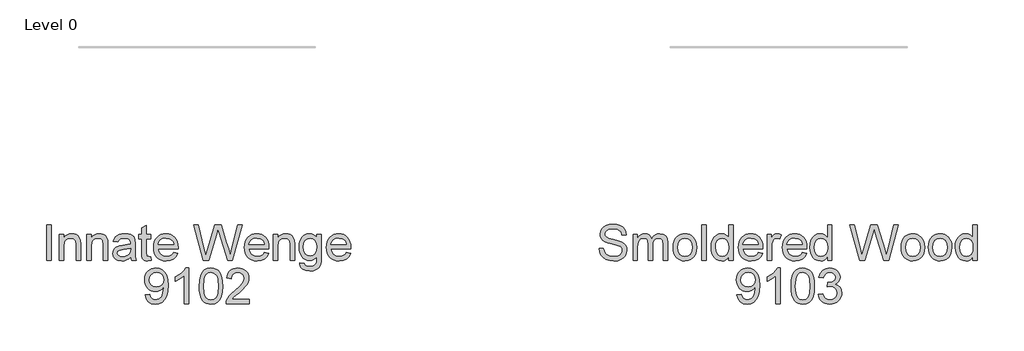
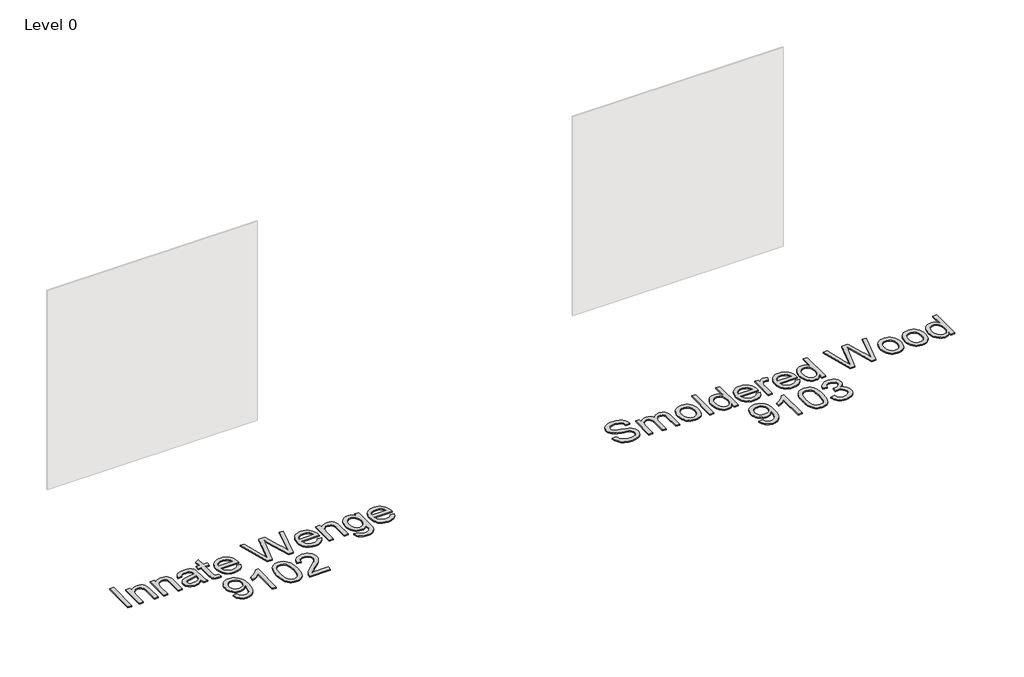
# One storey, part 4 of 10: 2 proxies.
"""IFC4 building model written with IfcOpenShell, lengths in millimetres."""

from ifc_helpers import new_model, si_unit, origin, origin_with_axes, place, context, project, spatial, polyline, outline, extrude, element, save

model = new_model("IFC4")

# Units and contexts
model_context = context("Model", 3, world=origin())
ifc_project = project(units=[si_unit("LENGTHUNIT", "METRE", prefix="MILLI")], contexts=[model_context])

# Site, building, storey
site = spatial("IfcSite", under=ifc_project)
building = spatial("IfcBuilding", under=site)
storey = spatial("IfcBuildingStorey", under=building, Name="Level 0", Elevation=0.0)

# Proxies
placement = place(None, origin())
element("IfcBuildingElementProxy", 1, Name="300mm Arial", ObjectType="300mm Arial", at=placement, inside=storey, context=model_context, shape_type="SweptSolid", body=[
    extrude(outline(polyline([(-10722.0582316, -7002.860494), (-10722.0582316, -6701.4915635), (-10684.3871153, -6701.4915635), (-10684.3871153, -7002.860494), (-10722.0582316, -7002.860494)])), origin_with_axes(), (0.0, 0.0, 1.0), 10.0),
    extrude(outline(polyline([(-10613.7537723, -7002.860494), (-10613.7537723, -6781.5426857), (-10576.082656, -6781.5426857), (-10576.082656, -6812.4447733), (-10562.995254, -6796.8649708), (-10547.2774957, -6785.7365404), (-10528.9293812, -6779.0594822), (-10507.9509104, -6776.8337961), (-10489.3820667, -6778.6272209), (-10472.3767215, -6784.0074951), (-10458.1948706, -6792.303234), (-10448.0965098, -6802.8430532), (-10436.8025326, -6830.5445674), (-10434.8159698, -6866.964885), (-10434.8159698, -7002.860494), (-10472.4870861, -7002.860494), (-10472.4870861, -6872.0416565), (-10476.8280937, -6838.7115477), (-10482.8337672, -6828.7879309), (-10492.1687729, -6821.0900002), (-10504.1341347, -6816.1511844), (-10518.0308771, -6814.5049125), (-10540.0945998, -6818.2021265), (-10558.9025668, -6829.2937687), (-10566.4188558, -6838.3482643), (-10571.7876337, -6850.7228949), (-10576.082656, -6885.4325611), (-10576.082656, -7002.860494), (-10613.7537723, -7002.860494)])), origin_with_axes(), (0.0, 0.0, 1.0), 10.0),
    extrude(outline(polyline([(-10383.0181849, -7002.860494), (-10383.0181849, -6781.5426857), (-10345.3470686, -6781.5426857), (-10345.3470686, -6812.4447733), (-10332.2596666, -6796.8649708), (-10316.5419084, -6785.7365404), (-10298.1937938, -6779.0594822), (-10277.2153231, -6776.8337961), (-10258.6464794, -6778.6272209), (-10241.6411341, -6784.0074951), (-10227.4592832, -6792.303234), (-10217.3609225, -6802.8430532), (-10206.0669452, -6830.5445674), (-10204.0803824, -6866.964885), (-10204.0803824, -7002.860494), (-10241.7514987, -7002.860494), (-10241.7514987, -6872.0416565), (-10246.0925063, -6838.7115477), (-10252.0981798, -6828.7879309), (-10261.4331855, -6821.0900002), (-10273.3985474, -6816.1511844), (-10287.2952897, -6814.5049125), (-10309.3590124, -6818.2021265), (-10328.1669794, -6829.2937687), (-10335.6832684, -6838.3482643), (-10341.0520463, -6850.7228949), (-10345.3470686, -6885.4325611), (-10345.3470686, -7002.860494), (-10383.0181849, -7002.860494)])), origin_with_axes(), (0.0, 0.0, 1.0), 10.0),
    extrude(outline(polyline([(-10011.0159114, -6974.6071568), (-10029.014538, -6990.0398064), (-10047.5465935, -7000.1381672), (-10067.0351422, -7005.7115794), (-10087.9032484, -7007.5693835), (-10119.3847501, -7003.0996173), (-10142.607301, -6989.6903186), (-10156.9271077, -6969.3280501), (-10161.7003766, -6943.9993748), (-10159.8977548, -6928.3827841), (-10154.4898895, -6914.2009331), (-10146.1481652, -6902.0608273), (-10135.5439667, -6892.5694718), (-10109.1668277, -6880.2086368), (-10076.5724829, -6874.5432541), (-10038.055238, -6868.5835657), (-10011.2366406, -6861.5938078), (-10011.0159114, -6853.2060983), (-10013.6094794, -6836.3938912), (-10021.3901836, -6825.3942195), (-10038.791002, -6817.2272392), (-10063.0344255, -6814.5049125), (-10085.4752272, -6816.3167313), (-10101.1470002, -6821.7521878), (-10111.8339721, -6831.8045633), (-10119.3203707, -6847.4671392), (-10156.991487, -6842.7582497), (-10150.4523846, -6822.156858), (-10140.6943147, -6805.9700502), (-10126.8067693, -6793.590821), (-10107.8792407, -6784.4121652), (-10084.7302661, -6778.7283884), (-10058.1783831, -6776.8337961), (-10032.711752, -6778.5076592), (-10012.5242275, -6783.5292485), (-9997.30311, -6791.0800264), (-9986.7356997, -6800.3414556), (-9979.7275477, -6811.7917827), (-9975.184205, -6825.9092543), (-9973.3447951, -6858.8714811), (-9973.3447951, -6905.7396473), (-9971.4318087, -6971.1858542), (-9963.927016, -7002.860494), (-10001.5981323, -7002.860494), (-10011.0159114, -6974.6071568)]), holes=[polyline([(-10011.0159114, -6899.2649241), (-10071.790017, -6910.8164188), (-10104.2004207, -6916.9232599), (-10118.8789123, -6926.8560738), (-10124.0292603, -6941.3506244), (-10121.2241601, -6952.5526311), (-10112.8088594, -6961.7312869), (-10098.9672994, -6967.8565221), (-10079.8834209, -6969.8982672), (-10059.6499111, -6967.64499), (-10041.7708462, -6960.8851583), (-10027.2762955, -6950.9247533), (-10017.1963289, -6939.069756), (-10012.7265626, -6926.8560738), (-10011.2366406, -6909.933502), (-10011.0159114, -6899.2649241)])]), origin_with_axes(), (0.0, 0.0, 1.0), 10.0),
    extrude(outline(polyline([(-9841.495888, -6971.4433716), (-9836.7869984, -7003.96414), (-9864.9667593, -7007.5693835), (-9883.0481593, -7006.005885), (-9896.5310345, -7001.3153896), (-9906.0591781, -6994.0865084), (-9912.2763839, -6984.9078526), (-9915.6976864, -6969.1441091), (-9916.8381206, -6942.1599648), (-9916.8381206, -6819.213802), (-9945.0914578, -6819.213802), (-9945.0914578, -6781.5426857), (-9916.8381206, -6781.5426857), (-9916.8381206, -6727.758338), (-9879.1670043, -6705.6118419), (-9879.1670043, -6781.5426857), (-9841.495888, -6781.5426857), (-9841.495888, -6819.213802), (-9879.1670043, -6819.213802), (-9879.1670043, -6941.0563188), (-9877.1804415, -6960.4804881), (-9870.7425066, -6967.3598814), (-9857.903425, -6969.8982672), (-9841.495888, -6971.4433716)])), origin_with_axes(), (0.0, 0.0, 1.0), 10.0),
    extrude(outline(polyline([(-9648.8728753, -6936.9360404), (-9611.937523, -6941.64493), (-9625.2456542, -6969.4752029), (-9646.4816423, -6990.2789297), (-9675.1672409, -7003.2467701), (-9710.8242033, -7007.5693835), (-9734.1985056, -7005.7046817), (-9755.025225, -7000.1105761), (-9773.3043617, -6990.7870668), (-9789.0359155, -6977.7341537), (-9801.6864576, -6961.3151204), (-9810.7225591, -6941.8932503), (-9816.14422, -6919.4685435), (-9817.9514403, -6894.0409998), (-9816.1258259, -6867.7512327), (-9810.6489827, -6844.5792656), (-9801.5209107, -6824.5250983), (-9788.7416099, -6807.5887309), (-9773.0514428, -6794.133447), (-9755.1907719, -6784.5225298), (-9735.1595973, -6778.7559796), (-9712.9579189, -6776.8337961), (-9691.4713111, -6778.751381), (-9672.040244, -6784.5041357), (-9654.6647175, -6794.0920602), (-9639.3447316, -6807.5151545), (-9626.8390431, -6824.4147337), (-9617.9064084, -6844.4321128), (-9612.5468275, -6867.5672917), (-9610.7603006, -6893.8202706), (-9610.9810298, -6903.9738137), (-9780.280324, -6903.9738137), (-9773.7596156, -6932.1719686), (-9758.6120745, -6952.902119), (-9736.7506869, -6965.6492302), (-9710.0884393, -6969.8982672), (-9690.0388706, -6967.9300985), (-9673.153087, -6962.0255925), (-9659.4310886, -6951.8168672), (-9648.8728753, -6936.9360404)]), holes=[polyline([(-9780.280324, -6866.3026974), (-9648.4314169, -6866.3026974), (-9653.5265825, -6846.4002814), (-9663.5145787, -6832.1632482), (-9685.4771338, -6818.9194964), (-9713.1050717, -6814.5049125), (-9738.4981264, -6818.0273826), (-9759.4949913, -6828.5947929), (-9774.0907094, -6845.0667092), (-9780.280324, -6866.3026974)])]), origin_with_axes(), (0.0, 0.0, 1.0), 10.0),
    extrude(outline(polyline([(-9396.7265558, -7002.860494), (-9478.9113935, -6701.4915635), (-9440.0630548, -6701.4915635), (-9392.3855483, -6899.5592297), (-9377.6702685, -6960.7012173), (-9361.9249191, -6906.622564), (-9302.1808831, -6701.4915635), (-9246.1892434, -6701.4915635), (-9202.779168, -6850.189466), (-9184.1827331, -6905.3717653), (-9170.4791288, -6960.7012173), (-9156.2053074, -6901.3250633), (-9108.0863424, -6701.4915635), (-9069.2380037, -6701.4915635), (-9151.4964178, -7002.860494), (-9191.7427081, -7002.860494), (-9263.994732, -6770.359073), (-9274.0746986, -6737.9118811), (-9285.4054641, -6776.9809489), (-9351.2563412, -7002.860494), (-9396.7265558, -7002.860494)])), origin_with_axes(), (0.0, 0.0, 1.0), 10.0),
    extrude(outline(polyline([(-8881.3238806, -6936.9360404), (-8844.3885283, -6941.64493), (-8857.6966594, -6969.4752029), (-8878.9326476, -6990.2789297), (-8907.6182462, -7003.2467701), (-8943.2752086, -7007.5693835), (-8966.6495108, -7005.7046817), (-8987.4762303, -7000.1105761), (-9005.7553669, -6990.7870668), (-9021.4869207, -6977.7341537), (-9034.1374628, -6961.3151204), (-9043.1735643, -6941.8932503), (-9048.5952253, -6919.4685435), (-9050.4024456, -6894.0409998), (-9048.5768312, -6867.7512327), (-9043.099988, -6844.5792656), (-9033.9719159, -6824.5250983), (-9021.1926151, -6807.5887309), (-9005.502448, -6794.133447), (-8987.6417772, -6784.5225298), (-8967.6106025, -6778.7559796), (-8945.4089241, -6776.8337961), (-8923.9223164, -6778.751381), (-8904.4912492, -6784.5041357), (-8887.1157227, -6794.0920602), (-8871.7957369, -6807.5151545), (-8859.2900483, -6824.4147337), (-8850.3574136, -6844.4321128), (-8844.9978328, -6867.5672917), (-8843.2113059, -6893.8202706), (-8843.4320351, -6903.9738137), (-9012.7313292, -6903.9738137), (-9006.2106209, -6932.1719686), (-8991.0630797, -6952.902119), (-8969.2016922, -6965.6492302), (-8942.5394446, -6969.8982672), (-8922.4898758, -6967.9300985), (-8905.6040923, -6962.0255925), (-8891.8820938, -6951.8168672), (-8881.3238806, -6936.9360404)]), holes=[polyline([(-9012.7313292, -6866.3026974), (-8880.8824222, -6866.3026974), (-8885.9775878, -6846.4002814), (-8895.965584, -6832.1632482), (-8917.9281391, -6818.9194964), (-8945.5560769, -6814.5049125), (-8970.9491316, -6818.0273826), (-8991.9459965, -6828.5947929), (-9006.5417147, -6845.0667092), (-9012.7313292, -6866.3026974)])]), origin_with_axes(), (0.0, 0.0, 1.0), 10.0),
    extrude(outline(polyline([(-8805.5401896, -7002.860494), (-8805.5401896, -6781.5426857), (-8767.8690733, -6781.5426857), (-8767.8690733, -6812.4447733), (-8754.7816713, -6796.8649708), (-8739.063913, -6785.7365404), (-8720.7157985, -6779.0594822), (-8699.7373278, -6776.8337961), (-8681.168484, -6778.6272209), (-8664.1631388, -6784.0074951), (-8649.9812879, -6792.303234), (-8639.8829271, -6802.8430532), (-8628.5889499, -6830.5445674), (-8626.6023871, -6866.964885), (-8626.6023871, -7002.860494), (-8664.2735034, -7002.860494), (-8664.2735034, -6872.0416565), (-8668.614511, -6838.7115477), (-8674.6201845, -6828.7879309), (-8683.9551902, -6821.0900002), (-8695.9205521, -6816.1511844), (-8709.8172944, -6814.5049125), (-8731.8810171, -6818.2021265), (-8750.6889841, -6829.2937687), (-8758.2052731, -6838.3482643), (-8763.574051, -6850.7228949), (-8767.8690733, -6885.4325611), (-8767.8690733, -7002.860494), (-8805.5401896, -7002.860494)])), origin_with_axes(), (0.0, 0.0, 1.0), 10.0),
    extrude(outline(polyline([(-8584.2223813, -7021.6960521), (-8546.551265, -7026.4049417), (-8542.3941984, -7038.1771655), (-8534.3375827, -7046.2705694), (-8518.5002628, -7052.5613515), (-8497.7701124, -7054.6582789), (-8475.6604045, -7052.28544), (-8459.2160793, -7045.1669234), (-8447.8117375, -7033.7625816), (-8440.8219795, -7018.532267), (-8438.2468056, -6974.6071568), (-8450.7823846, -6986.9679918), (-8464.7710974, -6995.7971597), (-8480.2129442, -7001.0946604), (-8497.1079248, -7002.860494), (-8517.7621996, -7000.8049533), (-8535.9470664, -6994.6383314), (-8551.6625254, -6984.3606281), (-8564.9085765, -6969.9718436), (-8575.4185053, -6952.708981), (-8582.9255972, -6933.8090435), (-8587.4298524, -6913.2720311), (-8588.9312708, -6891.0979438), (-8586.2365352, -6860.6832999), (-8578.1523283, -6832.7150712), (-8564.9637588, -6809.0142737), (-8546.9559352, -6791.4019232), (-8524.7450597, -6780.4758279), (-8498.9473348, -6776.8337961), (-8481.3303857, -6778.8939353), (-8465.3413145, -6785.0743528), (-8450.9801211, -6795.3750487), (-8438.2468056, -6809.7960229), (-8438.2468056, -6781.5426857), (-8400.5756893, -6781.5426857), (-8400.5756893, -6972.620594), (-8403.1508632, -7016.7388422), (-8410.8763851, -7045.7923228), (-8424.1845163, -7065.0601423), (-8443.5075181, -7079.8214074), (-8468.4223262, -7089.2023982), (-8498.5058764, -7092.3293952), (-8533.5558335, -7087.9240083), (-8561.1561802, -7074.7078476), (-8571.5511458, -7064.7865301), (-8578.8605012, -7052.644125), (-8583.0842463, -7038.2806323), (-8584.2223813, -7021.6960521)]), holes=[polyline([(-8551.2601545, -6888.5227699), (-8547.2410437, -6923.0760863), (-8535.1837113, -6946.8320661), (-8517.056326, -6960.6000498), (-8494.8270564, -6965.1893777), (-8472.7633338, -6960.6276409), (-8454.543978, -6946.9424307), (-8442.3210987, -6923.4899535), (-8438.2468056, -6889.6264159), (-8442.4406603, -6856.9676917), (-8455.0222246, -6833.4508352), (-8473.5082948, -6819.2413931), (-8495.4156676, -6814.5049125), (-8516.9275673, -6819.1678167), (-8534.9629821, -6833.1565296), (-8547.1858614, -6856.3238983), (-8551.2601545, -6888.5227699)])]), origin_with_axes(), (0.0, 0.0, 1.0), 10.0),
    extrude(outline(polyline([(-8189.1171184, -6936.9360404), (-8152.1817661, -6941.64493), (-8165.4898973, -6969.4752029), (-8186.7258855, -6990.2789297), (-8215.4114841, -7003.2467701), (-8251.0684464, -7007.5693835), (-8274.4427487, -7005.7046817), (-8295.2694682, -7000.1105761), (-8313.5486048, -6990.7870668), (-8329.2801586, -6977.7341537), (-8341.9307007, -6961.3151204), (-8350.9668022, -6941.8932503), (-8356.3884631, -6919.4685435), (-8358.1956834, -6894.0409998), (-8356.370069, -6867.7512327), (-8350.8932258, -6844.5792656), (-8341.7651538, -6824.5250983), (-8328.985853, -6807.5887309), (-8313.2956859, -6794.133447), (-8295.4350151, -6784.5225298), (-8275.4038404, -6778.7559796), (-8253.202162, -6776.8337961), (-8231.7155542, -6778.751381), (-8212.2844871, -6784.5041357), (-8194.9089606, -6794.0920602), (-8179.5889748, -6807.5151545), (-8167.0832862, -6824.4147337), (-8158.1506515, -6844.4321128), (-8152.7910707, -6867.5672917), (-8151.0045437, -6893.8202706), (-8151.2252729, -6903.9738137), (-8320.5245671, -6903.9738137), (-8314.0038588, -6932.1719686), (-8298.8563176, -6952.902119), (-8276.99493, -6965.6492302), (-8250.3326824, -6969.8982672), (-8230.2831137, -6967.9300985), (-8213.3973301, -6962.0255925), (-8199.6753317, -6951.8168672), (-8189.1171184, -6936.9360404)]), holes=[polyline([(-8320.5245671, -6866.3026974), (-8188.6756601, -6866.3026974), (-8193.7708257, -6846.4002814), (-8203.7588219, -6832.1632482), (-8225.721377, -6818.9194964), (-8253.3493148, -6814.5049125), (-8278.7423695, -6818.0273826), (-8299.7392344, -6828.5947929), (-8314.3349526, -6845.0667092), (-8320.5245671, -6866.3026974)])]), origin_with_axes(), (0.0, 0.0, 1.0), 10.0),
    extrude(outline(polyline([(-9888.5847834, -7293.4427149), (-9850.9136671, -7288.7338254), (-9844.4757321, -7310.1169663), (-9833.9910953, -7324.6758963), (-9819.7172739, -7333.0360146), (-9801.9117853, -7335.8227207), (-9785.9365097, -7334.029296), (-9771.4143679, -7328.6490218), (-9759.3478385, -7320.2705094), (-9750.7393998, -7309.4823699), (-9738.4153529, -7276.7408723), (-9732.9706994, -7233.0364913), (-9733.1914286, -7225.6788514), (-9746.2420424, -7241.6081418), (-9763.320964, -7254.2264942), (-9783.1957888, -7262.4486568), (-9804.6341121, -7265.1893777), (-9822.5292719, -7263.5155146), (-9838.9850934, -7258.4939254), (-9854.0015766, -7250.12461), (-9867.5787214, -7238.4075684), (-9878.8290127, -7223.9544045), (-9886.864935, -7207.3767221), (-9891.6864884, -7188.6745212), (-9893.2936729, -7167.8478018), (-9891.6083135, -7146.326705), (-9886.5522353, -7127.0129003), (-9878.1254384, -7109.9063875), (-9866.3279227, -7095.0071667), (-9851.9920212, -7082.9360387), (-9835.9500669, -7074.3138045), (-9818.2020599, -7069.1404639), (-9798.7480001, -7067.4160171), (-9770.6510128, -7071.3523544), (-9745.074017, -7083.1613665), (-9723.681679, -7102.254442), (-9708.1386647, -7128.0429699), (-9698.6749004, -7163.6907352), (-9695.5203123, -7212.3615232), (-9698.6657034, -7263.96617), (-9708.1018765, -7303.8537754), (-9723.7460584, -7333.8269609), (-9745.5154754, -7355.6883485), (-9772.4720286, -7369.0424649), (-9803.6776189, -7373.4938371), (-9835.8856876, -7368.2423216), (-9861.5822449, -7352.4877751), (-9879.5532804, -7327.2234791), (-9888.5847834, -7293.4427149)]), holes=[polyline([(-9733.1914286, -7166.964885), (-9737.2565246, -7141.4338745), (-9749.4518128, -7121.788976), (-9768.3793414, -7109.262594), (-9792.641159, -7105.0871334), (-9817.8042875, -7109.5844908), (-9837.9642208, -7123.0765629), (-9851.2079727, -7143.7239399), (-9855.6225566, -7169.6872117), (-9851.447096, -7192.964945), (-9838.920714, -7211.4418182), (-9819.2574214, -7223.4991506), (-9793.6712286, -7227.5182614), (-9769.6025491, -7223.4991506), (-9750.224365, -7211.4418182), (-9737.4496627, -7192.2843633), (-9733.1914286, -7166.964885)])]), origin_with_axes(), (0.0, 0.0, 1.0), 10.0),
    extrude(outline(polyline([(-9521.2913994, -7368.7849475), (-9558.9625157, -7368.7849475), (-9558.9625157, -7133.9290818), (-9594.6470692, -7159.3497277), (-9634.3047483, -7178.3692268), (-9634.3047483, -7142.7582497), (-9604.7178388, -7126.6634124), (-9579.0856608, -7107.5151545), (-9558.8797422, -7087.1528861), (-9545.5716111, -7067.4160171), (-9521.2913994, -7067.4160171), (-9521.2913994, -7368.7849475)])), origin_with_axes(), (0.0, 0.0, 1.0), 10.0),
    extrude(outline(polyline([(-9431.8224982, -7220.5285035), (-9429.0541861, -7172.2899768), (-9420.7492501, -7133.8187172), (-9406.9904635, -7104.5261133), (-9387.8605997, -7083.8235541), (-9363.2217031, -7071.5179013), (-9332.9358179, -7067.4160171), (-9309.722464, -7069.8440382), (-9288.9371312, -7077.1281017), (-9271.554707, -7088.983099), (-9258.5500784, -7105.1239216), (-9248.7276292, -7125.4126136), (-9240.8917427, -7149.7112194), (-9235.7597888, -7180.5673217), (-9234.0491375, -7220.5285035), (-9236.7898584, -7268.4911186), (-9245.012021, -7306.8704077), (-9258.6880342, -7336.1906027), (-9277.7903068, -7356.9759355), (-9302.4843857, -7369.3643617), (-9332.9358179, -7373.4938371), (-9353.6843624, -7371.7004123), (-9372.0784621, -7366.3201381), (-9388.1181171, -7357.3530145), (-9401.8033273, -7344.7990414), (-9414.9367146, -7322.1053209), (-9424.3177055, -7293.828991), (-9429.9463, -7259.9700519), (-9431.8224982, -7220.5285035)]), holes=[polyline([(-9394.1513818, -7220.4549271), (-9389.7367979, -7279.7115194), (-9384.218568, -7299.9795181), (-9376.4930461, -7314.0073184), (-9356.7745711, -7330.3688702), (-9332.9358179, -7335.8227207), (-9309.0970646, -7330.3504761), (-9289.3785896, -7313.933742), (-9281.6530677, -7299.8829491), (-9276.1348378, -7279.6195489), (-9271.7202539, -7220.4549271), (-9275.987685, -7162.5319069), (-9281.3219739, -7142.3305869), (-9288.7899784, -7127.9693935), (-9308.4716652, -7110.8076984), (-9333.3772762, -7105.0871334), (-9356.9585121, -7110.1271167), (-9375.9044349, -7125.2470667), (-9383.8874742, -7140.8820515), (-9389.5896451, -7161.9616898), (-9394.1513818, -7220.4549271)])]), origin_with_axes(), (0.0, 0.0, 1.0), 10.0),
    extrude(outline(polyline([(-9008.0224397, -7331.1138312), (-9008.0224397, -7368.7849475), (-9205.7958003, -7368.7849475), (-9201.7490984, -7342.8124787), (-9192.460078, -7322.5145896), (-9178.8668383, -7302.8237058), (-9159.2035456, -7282.213117), (-9131.7043665, -7259.156113), (-9091.053406, -7223.0484951), (-9066.6628297, -7196.3954446), (-9054.4675416, -7174.7639833), (-9050.4024456, -7153.7211331), (-9054.2376154, -7134.8579838), (-9065.7431248, -7119.1770138), (-9083.4290517, -7108.6096035), (-9105.805474, -7105.0871334), (-9129.3039365, -7108.52683), (-9147.5600805, -7118.84592), (-9159.3415014, -7135.2350629), (-9163.4157945, -7156.8849183), (-9201.0869108, -7152.1760288), (-9191.9542402, -7115.7373171), (-9183.4078816, -7101.2013798), (-9172.2081742, -7089.1210548), (-9158.6126352, -7079.6251008), (-9142.8787821, -7072.8422765), (-9104.9961336, -7067.4160171), (-9084.8063099, -7068.9243332), (-9066.8375737, -7073.4492818), (-9051.089925, -7080.9908627), (-9037.5633639, -7091.549076), (-9026.6993488, -7104.3421723), (-9018.9393379, -7118.5884026), (-9014.2833314, -7134.2877667), (-9012.7313292, -7151.4402648), (-9014.4051923, -7169.4572855), (-9019.4267816, -7187.1616065), (-9028.3387229, -7205.1694302), (-9041.6836423, -7224.0969588), (-9062.9564186, -7246.6941104), (-9095.651931, -7275.7108027), (-9138.98843, -7311.9471793), (-9155.9845782, -7331.1138312), (-9008.0224397, -7331.1138312)])), origin_with_axes(), (0.0, 0.0, 1.0), 10.0),
])
element("IfcBuildingElementProxy", 2, Name="300mm Arial", ObjectType="300mm Arial", at=placement, inside=storey, context=model_context, shape_type="SweptSolid", body=[
    extrude(outline(polyline([(-6054.0349441, -6899.2649241), (-6016.3638278, -6899.2649241), (-6012.0412143, -6920.1698185), (-6004.2237219, -6936.9728286), (-5992.0284338, -6950.308551), (-5974.5724331, -6960.8115819), (-5953.2352774, -6967.6265959), (-5929.3965241, -6969.8982672), (-5908.4088563, -6968.1784189), (-5890.0331506, -6963.0188739), (-5875.1431269, -6954.8518936), (-5864.6125048, -6944.1097394), (-5858.3493138, -6931.7764955), (-5856.2615835, -6918.8362463), (-5857.825082, -6906.2270909), (-5862.5155774, -6895.3285868), (-5872.0437211, -6886.0303694), (-5888.1201643, -6878.222074), (-5942.9713697, -6863.837888), (-5978.97782, -6854.3189414), (-6002.01643, -6845.2598472), (-6020.7692147, -6832.5863125), (-6034.0589517, -6817.2272392), (-6041.9776117, -6799.5137211), (-6044.617165, -6779.7768521), (-6041.3522123, -6757.7131294), (-6031.5573542, -6737.1393289), (-6015.490108, -6719.7017223), (-5993.4079913, -6707.0465817), (-5966.9020935, -6699.3486509), (-5937.5635044, -6696.782674), (-5905.7785, -6699.4682126), (-5877.9666212, -6707.5248283), (-5855.1211493, -6720.7869742), (-5838.2353657, -6739.0891034), (-5827.5483938, -6761.2907818), (-5823.2993567, -6786.2515752), (-5860.970473, -6786.2515752), (-5867.8866545, -6763.7739853), (-5882.3076287, -6747.5503893), (-5904.8404009, -6737.7279401), (-5936.0919764, -6734.4537903), (-5968.0793159, -6737.6911519), (-5990.0234769, -6747.4032365), (-6002.7154058, -6761.695452), (-6006.9460487, -6778.6732061), (-6003.9478104, -6793.1493626), (-5994.9530957, -6804.7928278), (-5973.6895163, -6815.2038882), (-5933.4432261, -6825.8356779), (-5891.9093488, -6835.9340387), (-5866.7830085, -6844.7448125), (-5845.3078971, -6858.4116286), (-5830.3259028, -6875.2790181), (-5821.5243261, -6895.1630399), (-5818.5904672, -6917.8797531), (-5821.9657845, -6941.102304), (-5832.0917364, -6962.9452975), (-5848.5544557, -6981.7440675), (-5870.9400751, -6995.8339479), (-5897.8598401, -7004.6355246), (-5927.9249961, -7007.5693835), (-5964.8327573, -7004.4055984), (-5995.2106131, -6994.9142429), (-6019.4080513, -6979.0585289), (-6037.7745599, -6956.8016682), (-6049.5651778, -6929.6887651), (-6054.0349441, -6899.2649241)])), origin_with_axes(), (0.0, 0.0, 1.0), 10.0),
    extrude(outline(polyline([(-5766.7926823, -7002.860494), (-5766.7926823, -6781.5426857), (-5729.1215659, -6781.5426857), (-5729.1215659, -6817.9630032), (-5717.7908005, -6801.2335695), (-5703.2226735, -6788.1277734), (-5685.9138256, -6779.6572905), (-5666.3608976, -6776.8337961), (-5645.4100179, -6779.7124728), (-5628.6162049, -6788.3485026), (-5616.0714288, -6802.1716686), (-5607.8676603, -6820.6117536), (-5594.1364649, -6801.4588972), (-5578.4738889, -6787.7782855), (-5560.8799325, -6779.5699185), (-5541.3545956, -6776.8337961), (-5513.036879, -6781.3863358), (-5492.0951965, -6795.0439549), (-5479.1549473, -6818.1745354), (-5474.8415309, -6851.1459592), (-5474.8415309, -7002.860494), (-5512.5126472, -7002.860494), (-5512.5126472, -6867.332767), (-5516.0075261, -6835.8788564), (-5520.9187508, -6827.2060383), (-5528.6626668, -6820.3910244), (-5538.6230718, -6815.9764404), (-5550.1837635, -6814.5049125), (-5570.5920172, -6818.2757029), (-5587.2294804, -6829.5880743), (-5598.2935314, -6849.2145787), (-5601.9815484, -6877.9277684), (-5601.9815484, -7002.860494), (-5639.6526647, -7002.860494), (-5639.6526647, -6863.1389122), (-5641.8323655, -6841.8385447), (-5648.371468, -6826.6450183), (-5659.8769774, -6817.5399389), (-5676.955899, -6814.5049125), (-5691.4688437, -6816.5282634), (-5704.8413543, -6822.5983163), (-5715.8778141, -6832.5679184), (-5723.3826068, -6846.2899168), (-5727.6868262, -6865.3278101), (-5729.1215659, -6891.2450966), (-5729.1215659, -7002.860494), (-5766.7926823, -7002.860494)])), origin_with_axes(), (0.0, 0.0, 1.0), 10.0),
    extrude(outline(polyline([(-5427.7526355, -6892.2015898), (-5425.7154889, -6863.5389839), (-5419.6040493, -6838.8403064), (-5409.4183166, -6818.1055575), (-5395.1582907, -6801.334737), (-5380.8016959, -6790.6155754), (-5364.9551789, -6782.9590314), (-5347.6187399, -6778.3651049), (-5328.7923788, -6776.8337961), (-5308.0093453, -6778.698498), (-5289.2174732, -6784.2926036), (-5272.4167623, -6793.6161129), (-5257.6072127, -6806.669026), (-5245.5199899, -6823.0098843), (-5236.8862593, -6842.1972296), (-5231.706021, -6864.2310619), (-5229.9792749, -6889.1113811), (-5233.0326954, -6927.1687735), (-5242.1929571, -6956.1394806), (-5257.1933455, -6977.8353213), (-5277.7671461, -6994.0681143), (-5302.2037076, -7004.1940662), (-5328.7923788, -7007.5693835), (-5349.8789149, -7005.7115794), (-5368.845531, -7000.1381672), (-5385.6922271, -6990.8491468), (-5400.4190033, -6977.8445183), (-5412.3774674, -6961.3450108), (-5420.9192274, -6941.5713536), (-5426.0442835, -6918.5235466), (-5427.7526355, -6892.2015898)]), holes=[polyline([(-5390.0815192, -6892.1280134), (-5385.7221175, -6926.2214773), (-5372.6439126, -6950.5108861), (-5352.9622259, -6965.0514219), (-5328.7923788, -6969.8982672), (-5304.7328963, -6965.0238308), (-5285.0879978, -6950.4005215), (-5272.0097928, -6925.789216), (-5267.6503912, -6890.950791), (-5272.037384, -6857.8506085), (-5285.1983624, -6833.8922936), (-5304.8708521, -6819.3517577), (-5328.7923788, -6814.5049125), (-5352.9622259, -6819.3333636), (-5372.6439126, -6833.8187172), (-5385.7221175, -6858.0529436), (-5390.0815192, -6892.1280134)])]), origin_with_axes(), (0.0, 0.0, 1.0), 10.0),
    extrude(outline(polyline([(-5187.599269, -7002.860494), (-5187.599269, -6701.4915635), (-5149.9281527, -6701.4915635), (-5149.9281527, -7002.860494), (-5187.599269, -7002.860494)])), origin_with_axes(), (0.0, 0.0, 1.0), 10.0),
    extrude(outline(polyline([(-4956.8636817, -7002.860494), (-4956.8636817, -6967.3230932), (-4968.1346663, -6984.9308452), (-4981.7876868, -6997.507811), (-4997.8227433, -7005.0539904), (-5016.2398357, -7007.5693835), (-5040.5936238, -7003.9273518), (-5062.8872727, -6993.0012565), (-5081.759619, -6975.5544529), (-5095.8494994, -6952.350296), (-5104.623485, -6924.3268851), (-5107.5481469, -6892.422319), (-5104.8534113, -6860.9132261), (-5096.7692044, -6832.4575538), (-5083.3047234, -6808.6739828), (-5064.4691653, -6791.181194), (-5041.6880727, -6780.4206456), (-5016.3869885, -6776.8337961), (-4997.9561005, -6779.3997731), (-4981.6589281, -6787.0977038), (-4967.8449592, -6798.8975188), (-4956.8636817, -6813.7691485), (-4956.8636817, -6701.4915635), (-4919.1925654, -6701.4915635), (-4919.1925654, -7002.860494), (-4956.8636817, -7002.860494)]), holes=[polyline([(-5069.8770306, -6892.2751662), (-5065.6279935, -6926.350236), (-5052.8808824, -6950.5844625), (-5034.358024, -6965.069816), (-5012.7817449, -6969.8982672), (-4991.214663, -6965.2905452), (-4973.1608541, -6951.4673793), (-4960.9379748, -6928.1712519), (-4956.8636817, -6895.1446458), (-4961.0115512, -6859.037028), (-4973.4551597, -6834.0026582), (-4991.9688211, -6819.3793489), (-5014.3268493, -6814.5049125), (-5036.1238575, -6819.1862108), (-5053.9845284, -6833.230106), (-5065.903905, -6857.3539678), (-5069.8770306, -6892.2751662)])]), origin_with_axes(), (0.0, 0.0, 1.0), 10.0),
    extrude(outline(polyline([(-4707.7339945, -6936.9360404), (-4670.7986422, -6941.64493), (-4684.1067734, -6969.4752029), (-4705.3427616, -6990.2789297), (-4734.0283601, -7003.2467701), (-4769.6853225, -7007.5693835), (-4793.0596248, -7005.7046817), (-4813.8863442, -7000.1105761), (-4832.1654809, -6990.7870668), (-4847.8970347, -6977.7341537), (-4860.5475768, -6961.3151204), (-4869.5836783, -6941.8932503), (-4875.0053392, -6919.4685435), (-4876.8125595, -6894.0409998), (-4874.9869451, -6867.7512327), (-4869.5101019, -6844.5792656), (-4860.3820299, -6824.5250983), (-4847.6027291, -6807.5887309), (-4831.912562, -6794.133447), (-4814.0518911, -6784.5225298), (-4794.0207165, -6778.7559796), (-4771.8190381, -6776.8337961), (-4750.3324303, -6778.751381), (-4730.9013632, -6784.5041357), (-4713.5258367, -6794.0920602), (-4698.2058509, -6807.5151545), (-4685.7001623, -6824.4147337), (-4676.7675276, -6844.4321128), (-4671.4079468, -6867.5672917), (-4669.6214198, -6893.8202706), (-4669.842149, -6903.9738137), (-4839.1414432, -6903.9738137), (-4832.6207348, -6932.1719686), (-4817.4731937, -6952.902119), (-4795.6118061, -6965.6492302), (-4768.9495585, -6969.8982672), (-4748.8999898, -6967.9300985), (-4732.0142062, -6962.0255925), (-4718.2922078, -6951.8168672), (-4707.7339945, -6936.9360404)]), holes=[polyline([(-4839.1414432, -6866.3026974), (-4707.2925361, -6866.3026974), (-4712.3877018, -6846.4002814), (-4722.3756979, -6832.1632482), (-4744.3382531, -6818.9194964), (-4771.9661909, -6814.5049125), (-4797.3592456, -6818.0273826), (-4818.3561105, -6828.5947929), (-4832.9518286, -6845.0667092), (-4839.1414432, -6866.3026974)])]), origin_with_axes(), (0.0, 0.0, 1.0), 10.0),
    extrude(outline(polyline([(-4631.9503035, -7002.860494), (-4631.9503035, -6781.5426857), (-4598.9880768, -6781.5426857), (-4598.9880768, -6814.2841833), (-4586.8111827, -6795.3014723), (-4575.5907819, -6784.1178596), (-4564.3335928, -6778.654812), (-4552.0463342, -6776.8337961), (-4533.2843524, -6779.7400639), (-4514.2280651, -6788.4588672), (-4526.8096293, -6822.2304343), (-4540.0533811, -6816.4362929), (-4553.297133, -6814.5049125), (-4564.545125, -6816.3627165), (-4574.5975005, -6821.9361288), (-4582.7184955, -6830.8020848), (-4588.1723461, -6842.5375205), (-4592.7524769, -6863.5803706), (-4594.2791872, -6886.5362071), (-4594.2791872, -7002.860494), (-4631.9503035, -7002.860494)])), origin_with_axes(), (0.0, 0.0, 1.0), 10.0),
    extrude(outline(polyline([(-4335.731721, -6936.9360404), (-4298.7963687, -6941.64493), (-4312.1044999, -6969.4752029), (-4333.340488, -6990.2789297), (-4362.0260866, -7003.2467701), (-4397.683049, -7007.5693835), (-4421.0573513, -7005.7046817), (-4441.8840707, -7000.1105761), (-4460.1632074, -6990.7870668), (-4475.8947612, -6977.7341537), (-4488.5453033, -6961.3151204), (-4497.5814048, -6941.8932503), (-4503.0030657, -6919.4685435), (-4504.810286, -6894.0409998), (-4502.9846716, -6867.7512327), (-4497.5078284, -6844.5792656), (-4488.3797564, -6824.5250983), (-4475.6004556, -6807.5887309), (-4459.9102885, -6794.133447), (-4442.0496176, -6784.5225298), (-4422.018443, -6778.7559796), (-4399.8167646, -6776.8337961), (-4378.3301568, -6778.751381), (-4358.8990897, -6784.5041357), (-4341.5235632, -6794.0920602), (-4326.2035773, -6807.5151545), (-4313.6978888, -6824.4147337), (-4304.7652541, -6844.4321128), (-4299.4056733, -6867.5672917), (-4297.6191463, -6893.8202706), (-4297.8398755, -6903.9738137), (-4467.1391697, -6903.9738137), (-4460.6184613, -6932.1719686), (-4445.4709202, -6952.902119), (-4423.6095326, -6965.6492302), (-4396.947285, -6969.8982672), (-4376.8977163, -6967.9300985), (-4360.0119327, -6962.0255925), (-4346.2899343, -6951.8168672), (-4335.731721, -6936.9360404)]), holes=[polyline([(-4467.1391697, -6866.3026974), (-4335.2902626, -6866.3026974), (-4340.3854283, -6846.4002814), (-4350.3734244, -6832.1632482), (-4372.3359795, -6818.9194964), (-4399.9639174, -6814.5049125), (-4425.3569721, -6818.0273826), (-4446.353837, -6828.5947929), (-4460.9495551, -6845.0667092), (-4467.1391697, -6866.3026974)])]), origin_with_axes(), (0.0, 0.0, 1.0), 10.0),
    extrude(outline(polyline([(-4123.3902334, -7002.860494), (-4123.3902334, -6967.3230932), (-4134.661218, -6984.9308452), (-4148.3142386, -6997.507811), (-4164.349295, -7005.0539904), (-4182.7663874, -7007.5693835), (-4207.1201755, -7003.9273518), (-4229.4138244, -6993.0012565), (-4248.2861708, -6975.5544529), (-4262.3760512, -6952.350296), (-4271.1500368, -6924.3268851), (-4274.0746986, -6892.422319), (-4271.379963, -6860.9132261), (-4263.2957562, -6832.4575538), (-4249.8312751, -6808.6739828), (-4230.995717, -6791.181194), (-4208.2146244, -6780.4206456), (-4182.9135402, -6776.8337961), (-4164.4826523, -6779.3997731), (-4148.1854799, -6787.0977038), (-4134.371511, -6798.8975188), (-4123.3902334, -6813.7691485), (-4123.3902334, -6701.4915635), (-4085.7191171, -6701.4915635), (-4085.7191171, -7002.860494), (-4123.3902334, -7002.860494)]), holes=[polyline([(-4236.4035823, -6892.2751662), (-4232.1545453, -6926.350236), (-4219.4074341, -6950.5844625), (-4200.8845757, -6965.069816), (-4179.3082967, -6969.8982672), (-4157.7412147, -6965.2905452), (-4139.6874058, -6951.4673793), (-4127.4645265, -6928.1712519), (-4123.3902334, -6895.1446458), (-4127.5381029, -6859.037028), (-4139.9817114, -6834.0026582), (-4158.4953728, -6819.3793489), (-4180.853401, -6814.5049125), (-4202.6504093, -6819.1862108), (-4220.5110801, -6833.230106), (-4232.4304568, -6857.3539678), (-4236.4035823, -6892.2751662)])]), origin_with_axes(), (0.0, 0.0, 1.0), 10.0),
    extrude(outline(polyline([(-3852.8498141, -7002.860494), (-3935.0346519, -6701.4915635), (-3896.1863132, -6701.4915635), (-3848.5088066, -6899.5592297), (-3833.7935268, -6960.7012173), (-3818.0481774, -6906.622564), (-3758.3041414, -6701.4915635), (-3702.3125017, -6701.4915635), (-3658.9024263, -6850.189466), (-3640.3059914, -6905.3717653), (-3626.6023871, -6960.7012173), (-3612.3285657, -6901.3250633), (-3564.2096007, -6701.4915635), (-3525.361262, -6701.4915635), (-3607.6196762, -7002.860494), (-3647.8659664, -7002.860494), (-3720.1179903, -6770.359073), (-3730.197957, -6737.9118811), (-3741.5287224, -6776.9809489), (-3807.3795995, -7002.860494), (-3852.8498141, -7002.860494)])), origin_with_axes(), (0.0, 0.0, 1.0), 10.0),
    extrude(outline(polyline([(-3501.8168143, -6892.2015898), (-3499.7796678, -6863.5389839), (-3493.6682282, -6838.8403064), (-3483.4824954, -6818.1055575), (-3469.2224696, -6801.334737), (-3454.8658747, -6790.6155754), (-3439.0193578, -6782.9590314), (-3421.6829187, -6778.3651049), (-3402.8565576, -6776.8337961), (-3382.0735242, -6778.698498), (-3363.281652, -6784.2926036), (-3346.4809411, -6793.6161129), (-3331.6713916, -6806.669026), (-3319.5841688, -6823.0098843), (-3310.9504382, -6842.1972296), (-3305.7701999, -6864.2310619), (-3304.0434537, -6889.1113811), (-3307.0968743, -6927.1687735), (-3316.257136, -6956.1394806), (-3331.2575243, -6977.8353213), (-3351.8313249, -6994.0681143), (-3376.2678864, -7004.1940662), (-3402.8565576, -7007.5693835), (-3423.9430938, -7005.7115794), (-3442.9097099, -7000.1381672), (-3459.756406, -6990.8491468), (-3474.4831821, -6977.8445183), (-3486.4416462, -6961.3450108), (-3494.9834063, -6941.5713536), (-3500.1084623, -6918.5235466), (-3501.8168143, -6892.2015898)]), holes=[polyline([(-3464.145698, -6892.1280134), (-3459.7862964, -6926.2214773), (-3446.7080915, -6950.5108861), (-3427.0264047, -6965.0514219), (-3402.8565576, -6969.8982672), (-3378.7970752, -6965.0238308), (-3359.1521766, -6950.4005215), (-3346.0739717, -6925.789216), (-3341.71457, -6890.950791), (-3346.1015628, -6857.8506085), (-3359.2625412, -6833.8922936), (-3378.9350309, -6819.3517577), (-3402.8565576, -6814.5049125), (-3427.0264047, -6819.3333636), (-3446.7080915, -6833.8187172), (-3459.7862964, -6858.0529436), (-3464.145698, -6892.1280134)])]), origin_with_axes(), (0.0, 0.0, 1.0), 10.0),
    extrude(outline(polyline([(-3271.081227, -6892.2015898), (-3269.0440804, -6863.5389839), (-3262.9326408, -6838.8403064), (-3252.746908, -6818.1055575), (-3238.4868822, -6801.334737), (-3224.1302873, -6790.6155754), (-3208.2837704, -6782.9590314), (-3190.9473314, -6778.3651049), (-3172.1209703, -6776.8337961), (-3151.3379368, -6778.698498), (-3132.5460646, -6784.2926036), (-3115.7453538, -6793.6161129), (-3100.9358042, -6806.669026), (-3088.8485814, -6823.0098843), (-3080.2148508, -6842.1972296), (-3075.0346125, -6864.2310619), (-3073.3078664, -6889.1113811), (-3076.3612869, -6927.1687735), (-3085.5215486, -6956.1394806), (-3100.521937, -6977.8353213), (-3121.0957375, -6994.0681143), (-3145.5322991, -7004.1940662), (-3172.1209703, -7007.5693835), (-3193.2075064, -7005.7115794), (-3212.1741225, -7000.1381672), (-3229.0208186, -6990.8491468), (-3243.7475947, -6977.8445183), (-3255.7060588, -6961.3450108), (-3264.2478189, -6941.5713536), (-3269.372875, -6918.5235466), (-3271.081227, -6892.2015898)]), holes=[polyline([(-3233.4101107, -6892.1280134), (-3229.050709, -6926.2214773), (-3215.9725041, -6950.5108861), (-3196.2908174, -6965.0514219), (-3172.1209703, -6969.8982672), (-3148.0614878, -6965.0238308), (-3128.4165892, -6950.4005215), (-3115.3383843, -6925.789216), (-3110.9789827, -6890.950791), (-3115.3659755, -6857.8506085), (-3128.5269538, -6833.8922936), (-3148.1994435, -6819.3517577), (-3172.1209703, -6814.5049125), (-3196.2908174, -6819.3333636), (-3215.9725041, -6833.8187172), (-3229.050709, -6858.0529436), (-3233.4101107, -6892.1280134)])]), origin_with_axes(), (0.0, 0.0, 1.0), 10.0),
    extrude(outline(polyline([(-2894.3700639, -7002.860494), (-2894.3700639, -6967.3230932), (-2905.6410485, -6984.9308452), (-2919.2940691, -6997.507811), (-2935.3291255, -7005.0539904), (-2953.7462179, -7007.5693835), (-2978.100006, -7003.9273518), (-3000.3936549, -6993.0012565), (-3019.2660013, -6975.5544529), (-3033.3558817, -6952.350296), (-3042.1298673, -6924.3268851), (-3045.0545291, -6892.422319), (-3042.3597935, -6860.9132261), (-3034.2755867, -6832.4575538), (-3020.8111057, -6808.6739828), (-3001.9755475, -6791.181194), (-2979.1944549, -6780.4206456), (-2953.8933707, -6776.8337961), (-2935.4624828, -6779.3997731), (-2919.1653104, -6787.0977038), (-2905.3513415, -6798.8975188), (-2894.3700639, -6813.7691485), (-2894.3700639, -6701.4915635), (-2856.6989476, -6701.4915635), (-2856.6989476, -7002.860494), (-2894.3700639, -7002.860494)]), holes=[polyline([(-3007.3834128, -6892.2751662), (-3003.1343758, -6926.350236), (-2990.3872647, -6950.5844625), (-2971.8644062, -6965.069816), (-2950.2881272, -6969.8982672), (-2928.7210452, -6965.2905452), (-2910.6672363, -6951.4673793), (-2898.444357, -6928.1712519), (-2894.3700639, -6895.1446458), (-2898.5179334, -6859.037028), (-2910.9615419, -6834.0026582), (-2929.4752033, -6819.3793489), (-2951.8332316, -6814.5049125), (-2973.6302398, -6819.1862108), (-2991.4909106, -6833.230106), (-3003.4102873, -6857.3539678), (-3007.3834128, -6892.2751662)])]), origin_with_axes(), (0.0, 0.0, 1.0), 10.0),
    extrude(outline(polyline([(-4888.5847834, -7293.4427149), (-4850.9136671, -7288.7338254), (-4844.4757321, -7310.1169663), (-4833.9910953, -7324.6758963), (-4819.7172739, -7333.0360146), (-4801.9117853, -7335.8227207), (-4785.9365097, -7334.029296), (-4771.4143679, -7328.6490218), (-4759.3478385, -7320.2705094), (-4750.7393998, -7309.4823699), (-4738.4153529, -7276.7408723), (-4732.9706994, -7233.0364913), (-4733.1914286, -7225.6788514), (-4746.2420424, -7241.6081418), (-4763.320964, -7254.2264942), (-4783.1957888, -7262.4486568), (-4804.6341121, -7265.1893777), (-4822.5292719, -7263.5155146), (-4838.9850934, -7258.4939254), (-4854.0015766, -7250.12461), (-4867.5787214, -7238.4075684), (-4878.8290127, -7223.9544045), (-4886.864935, -7207.3767221), (-4891.6864884, -7188.6745212), (-4893.2936729, -7167.8478018), (-4891.6083135, -7146.326705), (-4886.5522353, -7127.0129003), (-4878.1254384, -7109.9063875), (-4866.3279227, -7095.0071667), (-4851.9920212, -7082.9360387), (-4835.9500669, -7074.3138045), (-4818.2020599, -7069.1404639), (-4798.7480001, -7067.4160171), (-4770.6510128, -7071.3523544), (-4745.074017, -7083.1613665), (-4723.681679, -7102.254442), (-4708.1386647, -7128.0429699), (-4698.6749004, -7163.6907352), (-4695.5203123, -7212.3615232), (-4698.6657034, -7263.96617), (-4708.1018765, -7303.8537754), (-4723.7460584, -7333.8269609), (-4745.5154754, -7355.6883485), (-4772.4720286, -7369.0424649), (-4803.6776189, -7373.4938371), (-4835.8856876, -7368.2423216), (-4861.5822449, -7352.4877751), (-4879.5532804, -7327.2234791), (-4888.5847834, -7293.4427149)]), holes=[polyline([(-4733.1914286, -7166.964885), (-4737.2565246, -7141.4338745), (-4749.4518128, -7121.788976), (-4768.3793414, -7109.262594), (-4792.641159, -7105.0871334), (-4817.8042875, -7109.5844908), (-4837.9642208, -7123.0765629), (-4851.2079727, -7143.7239399), (-4855.6225566, -7169.6872117), (-4851.447096, -7192.964945), (-4838.920714, -7211.4418182), (-4819.2574214, -7223.4991506), (-4793.6712286, -7227.5182614), (-4769.6025491, -7223.4991506), (-4750.224365, -7211.4418182), (-4737.4496627, -7192.2843633), (-4733.1914286, -7166.964885)])]), origin_with_axes(), (0.0, 0.0, 1.0), 10.0),
    extrude(outline(polyline([(-4521.2913994, -7368.7849475), (-4558.9625157, -7368.7849475), (-4558.9625157, -7133.9290818), (-4594.6470692, -7159.3497277), (-4634.3047483, -7178.3692268), (-4634.3047483, -7142.7582497), (-4604.7178388, -7126.6634124), (-4579.0856608, -7107.5151545), (-4558.8797422, -7087.1528861), (-4545.5716111, -7067.4160171), (-4521.2913994, -7067.4160171), (-4521.2913994, -7368.7849475)])), origin_with_axes(), (0.0, 0.0, 1.0), 10.0),
    extrude(outline(polyline([(-4431.8224982, -7220.5285035), (-4429.0541861, -7172.2899768), (-4420.7492501, -7133.8187172), (-4406.9904635, -7104.5261133), (-4387.8605997, -7083.8235541), (-4363.2217031, -7071.5179013), (-4332.9358179, -7067.4160171), (-4309.722464, -7069.8440382), (-4288.9371312, -7077.1281017), (-4271.554707, -7088.983099), (-4258.5500784, -7105.1239216), (-4248.7276292, -7125.4126136), (-4240.8917427, -7149.7112194), (-4235.7597888, -7180.5673217), (-4234.0491375, -7220.5285035), (-4236.7898584, -7268.4911186), (-4245.012021, -7306.8704077), (-4258.6880342, -7336.1906027), (-4277.7903068, -7356.9759355), (-4302.4843857, -7369.3643617), (-4332.9358179, -7373.4938371), (-4353.6843624, -7371.7004123), (-4372.0784621, -7366.3201381), (-4388.1181171, -7357.3530145), (-4401.8033273, -7344.7990414), (-4414.9367146, -7322.1053209), (-4424.3177055, -7293.828991), (-4429.9463, -7259.9700519), (-4431.8224982, -7220.5285035)]), holes=[polyline([(-4394.1513818, -7220.4549271), (-4389.7367979, -7279.7115194), (-4384.218568, -7299.9795181), (-4376.4930461, -7314.0073184), (-4356.7745711, -7330.3688702), (-4332.9358179, -7335.8227207), (-4309.0970646, -7330.3504761), (-4289.3785896, -7313.933742), (-4281.6530677, -7299.8829491), (-4276.1348378, -7279.6195489), (-4271.7202539, -7220.4549271), (-4275.987685, -7162.5319069), (-4281.3219739, -7142.3305869), (-4288.7899784, -7127.9693935), (-4308.4716652, -7110.8076984), (-4333.3772762, -7105.0871334), (-4356.9585121, -7110.1271167), (-4375.9044349, -7125.2470667), (-4383.8874742, -7140.8820515), (-4389.5896451, -7161.9616898), (-4394.1513818, -7220.4549271)])]), origin_with_axes(), (0.0, 0.0, 1.0), 10.0),
    extrude(outline(polyline([(-4201.0869108, -7288.7338254), (-4163.4157945, -7284.0249358), (-4154.9820997, -7307.6981422), (-4142.6304617, -7323.6826149), (-4125.7538752, -7332.7876943), (-4103.7453349, -7335.8227207), (-4077.9200188, -7331.6472601), (-4057.9808147, -7319.1208782), (-4045.2337035, -7300.4324728), (-4040.9846665, -7277.7709419), (-4045.1969153, -7256.2590422), (-4057.8336619, -7238.8122386), (-4076.9635256, -7227.2515469), (-4100.6551261, -7223.397983), (-4127.0690533, -7227.5182614), (-4122.8751986, -7189.8471451), (-4116.8419339, -7190.2886035), (-4094.2723735, -7187.5846708), (-4074.094046, -7179.4728728), (-4059.8570128, -7165.7508744), (-4055.1113351, -7146.2163404), (-4058.5510317, -7129.9467592), (-4068.8701217, -7116.7489926), (-4084.6154711, -7108.0025982), (-4104.333946, -7105.0871334), (-4124.0892092, -7108.0301893), (-4140.2392288, -7116.8593572), (-4152.0298467, -7131.574637), (-4158.7069049, -7152.1760288), (-4196.3780212, -7147.4671392), (-4185.2863791, -7113.6403898), (-4165.54951, -7088.3852908), (-4138.5469716, -7072.6583355), (-4105.6583212, -7067.4160171), (-4081.9759178, -7070.0003881), (-4060.2248948, -7077.7535011), (-4041.8859774, -7089.9855775), (-4028.4398904, -7106.0068384), (-4020.1901367, -7124.4653175), (-4017.4402188, -7144.0090485), (-4020.052181, -7162.2192072), (-4027.8880675, -7178.7371088), (-4040.8375137, -7192.8085951), (-4058.790155, -7203.6795081), (-4035.2089192, -7213.2076518), (-4017.7345244, -7229.4312477), (-4006.9187937, -7251.4673793), (-4003.3135502, -7278.4331295), (-4005.1161719, -7297.5445992), (-4010.5240373, -7315.1477526), (-4019.5371462, -7331.2425899), (-4032.1554986, -7345.829111), (-4047.5283675, -7357.9324287), (-4064.8050257, -7366.5776555), (-4083.9854732, -7371.7647917), (-4105.06971, -7373.4938371), (-4124.1259974, -7372.0177105), (-4141.4900276, -7367.589331), (-4157.1618006, -7360.2086985), (-4171.1413164, -7349.875813), (-4182.8629564, -7337.1976797), (-4191.7611022, -7322.781304), (-4197.8357536, -7306.6266859), (-4201.0869108, -7288.7338254)])), origin_with_axes(), (0.0, 0.0, 1.0), 10.0),
])

save(model, "model.ifc")
